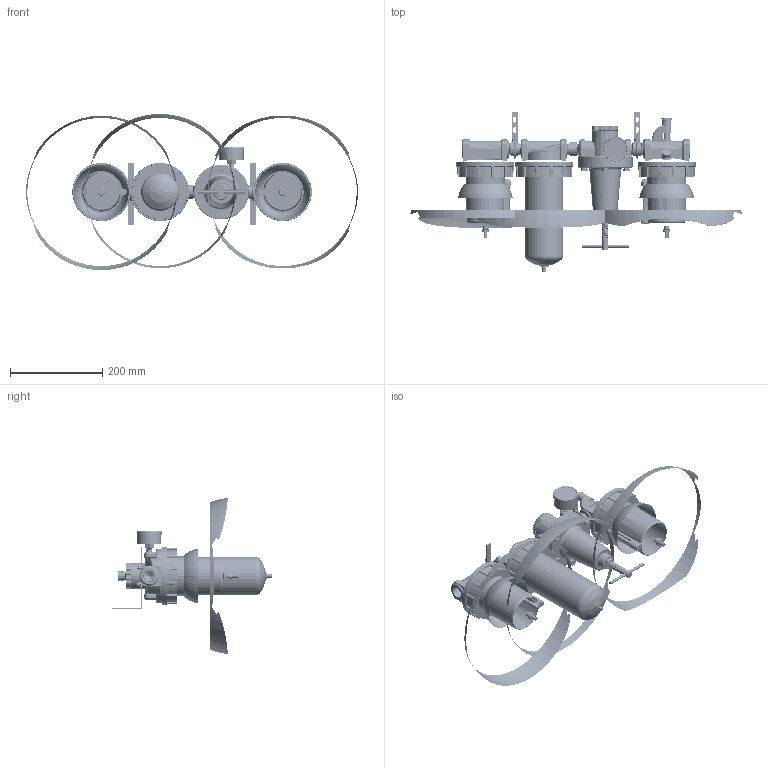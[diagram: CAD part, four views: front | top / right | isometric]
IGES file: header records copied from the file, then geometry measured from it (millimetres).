
Start section: SolidWorks IGES file using analytic representation for surfaces
Global section: file name: D:\Custom\3D繪製\FRL\FSRL系列\A728#W#-06YB#.IGS; native system: SolidWorks 2014; preprocessor: SolidWorks 2014; author: Chieh_Lu; date: 160115.014601; units: millimetre
Bounding box: 718.81 x 346.59 x 338.09 mm (x, y, z)
Surface area: 558435.7 mm2 (no closed solid volume)
Topology: 0 solids, 0 shells, 2133 faces, 25602 edges, 25567 vertices
Faces by surface type: bspline 1135, revolution 998
